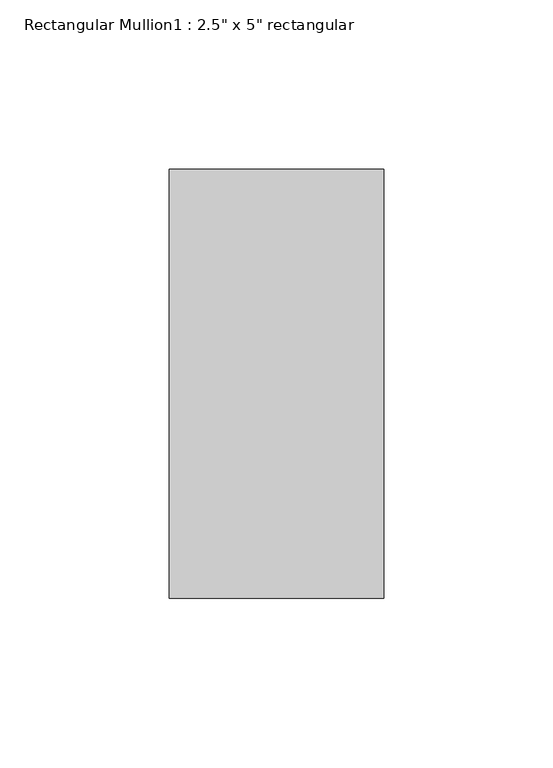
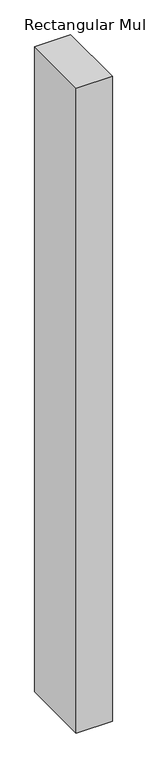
"""IFC4 building model written with IfcOpenShell, lengths in millimetres: member geometry."""

import ifcopenshell
import ifcopenshell.guid

model = None  # the IFC model being written
_history = None  # IfcOwnerHistory: only IFC2X3 demands one
_inside = {}  # id of a spatial element -> (the spatial element, [elements in it])
_under = {}  # id of a project, library or spatial element -> (it, [spatial elements below it])
_declared = {}  # id of a project -> (the project, [libraries it declares])
_typed = {}  # id of a type object -> (the type object, [elements of that type])
_made_of = {}  # id of a material, layer set ... -> (it, [elements and type objects made of it])


def new_model(schema):
    """Start an empty IFC model of exactly this schema.

    Asked for "IFC4X3", IfcOpenShell would pick the latest addendum, in which some entities
    have other attributes; the version numbers below select the first issue.
    IFC2X3 requires an IfcOwnerHistory on every rooted entity: one is made here for all.
    """
    global model, _history
    if schema == "IFC4X3":
        model = ifcopenshell.file(schema_version=(4, 3, 0, 0))
    else:
        model = ifcopenshell.file(schema=schema)
    _inside.clear()
    _under.clear()
    _declared.clear()
    _typed.clear()
    _made_of.clear()
    _history = None
    if model.schema == "IFC2X3":
        org = make("IfcOrganization", Name="unknown")
        user = make(
            "IfcPersonAndOrganization",
            ThePerson=make("IfcPerson", FamilyName="unknown"),
            TheOrganization=org,
        )
        app = make(
            "IfcApplication",
            ApplicationDeveloper=org,
            Version="unknown",
            ApplicationFullName="unknown",
            ApplicationIdentifier="unknown",
        )
        _history = make(
            "IfcOwnerHistory",
            OwningUser=user,
            OwningApplication=app,
            ChangeAction="ADDED",
            CreationDate=0,
        )
    return model


def make(cls, **values):
    """One entity of the class cls with the attributes given. An attribute that is None is left unset."""
    return model.create_entity(
        cls, **{name: value for name, value in values.items() if value is not None}
    )


def rooted(cls, **values):
    """An entity with a GlobalId (a new one), such as an element, a storey or a relation."""
    return make(cls, GlobalId=ifcopenshell.guid.new(), OwnerHistory=_history, **values)


def si_unit(unit_type, name, prefix=None):
    """IfcSIUnit, for example si_unit("LENGTHUNIT", "METRE", prefix="MILLI")."""
    return make("IfcSIUnit", UnitType=unit_type, Prefix=prefix, Name=name)


def assignment(units):
    """IfcUnitAssignment: the units of a project."""
    return None if units is None else make("IfcUnitAssignment", Units=units)


def point(xyz):
    """IfcCartesianPoint."""
    return None if xyz is None else make("IfcCartesianPoint", Coordinates=xyz)


def direction(xyz):
    """IfcDirection."""
    return None if xyz is None else make("IfcDirection", DirectionRatios=xyz)


def frame(location, z_axis=None, x_axis=None):
    """IfcAxis2Placement3D, a coordinate frame: its origin and axes. An axis left out is left unset."""
    return make(
        "IfcAxis2Placement3D",
        Location=point(location),
        Axis=direction(z_axis),
        RefDirection=direction(x_axis),
    )


def origin():
    """The frame at (0, 0, 0) with its axes left unset."""
    return frame((0.0, 0.0, 0.0))


def place(relative_to, where):
    """IfcLocalPlacement: puts the frame where relative to a parent placement (None: the world)."""
    return make(
        "IfcLocalPlacement", PlacementRelTo=relative_to, RelativePlacement=where
    )


def context(
    kind, dimensions, precision=None, world=None, true_north=None, identifier=None
):
    """IfcGeometricRepresentationContext, for example the 3D "Model" context."""
    return make(
        "IfcGeometricRepresentationContext",
        ContextIdentifier=identifier,
        ContextType=kind,
        CoordinateSpaceDimension=dimensions,
        Precision=precision,
        WorldCoordinateSystem=world,
        TrueNorth=true_north,
    )


def project(units=None, contexts=None):
    """IfcProject with its units and contexts."""
    return rooted(
        "IfcProject",
        Name="project",
        RepresentationContexts=contexts,
        UnitsInContext=assignment(units),
    )


def spatial(cls, under=None, at=None, **own):
    """A site, building, storey or space (cls), placed at a placement, below another one or the project."""
    s = rooted(cls, ObjectPlacement=at, **own)
    if under is not None:
        _under.setdefault(under.id(), (under, []))[1].append(s)
    return s


def polyline(points):
    """IfcPolyline through the points."""
    return make("IfcPolyline", Points=[point(p) for p in points])


def outline(outer, holes=None, kind="AREA"):
    """IfcArbitraryClosedProfileDef: a profile drawn as a closed curve; with holes, ...WithVoids."""
    if holes is None:
        return make("IfcArbitraryClosedProfileDef", ProfileType=kind, OuterCurve=outer)
    return make(
        "IfcArbitraryProfileDefWithVoids",
        ProfileType=kind,
        OuterCurve=outer,
        InnerCurves=holes,
    )


def extrude(swept, where, along, depth):
    """IfcExtrudedAreaSolid: the profile swept, set in the frame where, extruded along a direction by depth."""
    return make(
        "IfcExtrudedAreaSolid",
        SweptArea=swept,
        Position=where,
        ExtrudedDirection=direction(along),
        Depth=depth,
    )


def shape(context_of_items, identifier, shape_type, items):
    """IfcShapeRepresentation: the items that make up one representation, for example the "Body"."""
    return make(
        "IfcShapeRepresentation",
        ContextOfItems=context_of_items,
        RepresentationIdentifier=identifier,
        RepresentationType=shape_type,
        Items=items,
    )


def source(mapping_origin, context_of_items, identifier, shape_type, items):
    """IfcRepresentationMap: a shape defined once, which mapped items show again and again."""
    return make(
        "IfcRepresentationMap",
        MappingOrigin=mapping_origin,
        MappedRepresentation=shape(context_of_items, identifier, shape_type, items),
    )


def transform(
    local_origin,
    x_axis=None,
    y_axis=None,
    z_axis=None,
    scale=None,
    scale2=None,
    scale3=None,
    uniform=True,
):
    """IfcCartesianTransformationOperator3D, or its non-uniform kind. x_axis, y_axis, z_axis: its Axis1, 2, 3."""
    if uniform:
        return make(
            "IfcCartesianTransformationOperator3D",
            Axis1=direction(x_axis),
            Axis2=direction(y_axis),
            LocalOrigin=point(local_origin),
            Scale=scale,
            Axis3=direction(z_axis),
        )
    return make(
        "IfcCartesianTransformationOperator3DnonUniform",
        Axis1=direction(x_axis),
        Axis2=direction(y_axis),
        LocalOrigin=point(local_origin),
        Scale=scale,
        Axis3=direction(z_axis),
        Scale2=scale2,
        Scale3=scale3,
    )


def mapped(mapping_source, mapping_target):
    """IfcMappedItem: shows the shape of a source again, moved by a transform."""
    return make(
        "IfcMappedItem", MappingSource=mapping_source, MappingTarget=mapping_target
    )


def made_of(thing, what):
    """Note that an element or type object is made of a material, layer set ...; save() writes the relation."""
    if what is not None:
        _made_of.setdefault(what.id(), (what, []))[1].append(thing)
    return thing


def element(
    cls,
    number,
    at=None,
    inside=None,
    cuts=None,
    type_object=None,
    material=None,
    context=None,
    identifier="Body",
    shape_type=None,
    held_by="IfcProductDefinitionShape",
    body=None,
    shapes=None,
    **own,
):
    """One element of the class cls, such as IfcWall. Its Tag is "e" and its number.

    at: its placement. inside: the storey or other place that contains it. cuts: it is an
    opening in that element (IfcRelVoidsElement). A single representation is given by context,
    identifier, shape_type and body (its items); several are given by shapes. held_by: the class
    of the entity that holds the representations. save() writes the other relations.
    """
    e = rooted(cls, Tag="e%d" % number, ObjectPlacement=at, **own)
    if body is not None:
        shapes = [shape(context, identifier, shape_type, body)]
    if shapes is not None:
        e.Representation = make(held_by, Representations=shapes)
    if inside is not None:
        _inside.setdefault(inside.id(), (inside, []))[1].append(e)
    if cuts is not None:
        rooted(
            "IfcRelVoidsElement", RelatingBuildingElement=cuts, RelatedOpeningElement=e
        )
    if type_object is not None:
        _typed.setdefault(type_object.id(), (type_object, []))[1].append(e)
    return made_of(e, material)


def aggregate(whole, parts):
    """IfcRelAggregates: a whole, such as a stair, and the parts it consists of."""
    return rooted("IfcRelAggregates", RelatingObject=whole, RelatedObjects=parts)


def save(model, path):
    """Write the relations noted so far, then the file.

    IfcRelAggregates (storeys below a building ...), IfcRelContainedInSpatialStructure (elements
    in a storey), IfcRelDefinesByType, IfcRelAssociatesMaterial and IfcRelDeclares: one each for
    every whole, place, type object, material and project.
    """
    for whole, parts in _under.values():
        aggregate(whole, parts)
    for where, things in _inside.values():
        rooted(
            "IfcRelContainedInSpatialStructure",
            RelatedElements=things,
            RelatingStructure=where,
        )
    for kind, things in _typed.values():
        rooted("IfcRelDefinesByType", RelatedObjects=things, RelatingType=kind)
    for what, things in _made_of.values():
        rooted("IfcRelAssociatesMaterial", RelatedObjects=things, RelatingMaterial=what)
    for by, libraries in _declared.values():
        rooted("IfcRelDeclares", RelatingContext=by, RelatedDefinitions=libraries)
    model.write(path)


def member_7ac431fd(model_context):
    return source(origin(), model_context, "Body", "SweptSolid", [
        extrude(outline(polyline([(0.0, 63.5), (0.0, -63.5), (-63.5, -63.5), (-63.5, 63.5), (0.0, 63.5)])), frame((0.0, 0.0, -1202.1401937), z_axis=(0.0, 0.0, 1.0), x_axis=(1.0, 0.0, 0.0)), (0.0, 0.0, 1.0), 1202.1401937),
    ])


if __name__ == "__main__":
    model = new_model("IFC4")
    model_context = context("Model", 3, world=origin())
    ifc_project = project(units=[si_unit("LENGTHUNIT", "METRE", prefix="MILLI")], contexts=[model_context])
    site = spatial("IfcSite", under=ifc_project)
    building = spatial("IfcBuilding", under=site)
    placement = place(None, origin())
    member_shape = member_7ac431fd(model_context)
    element("IfcMember", 1, ObjectType="Rectangular Mullion1 : 2.5\" x 5\" rectangular", at=placement, inside=building, context=model_context, shape_type="MappedRepresentation", body=[
        mapped(member_shape, transform((0.0, 0.0, 0.0), x_axis=(1.0, 0.0, 0.0), y_axis=(0.0, 1.0, 0.0), z_axis=(0.0, 0.0, 1.0))),
    ])
    save(model, "model.ifc")
